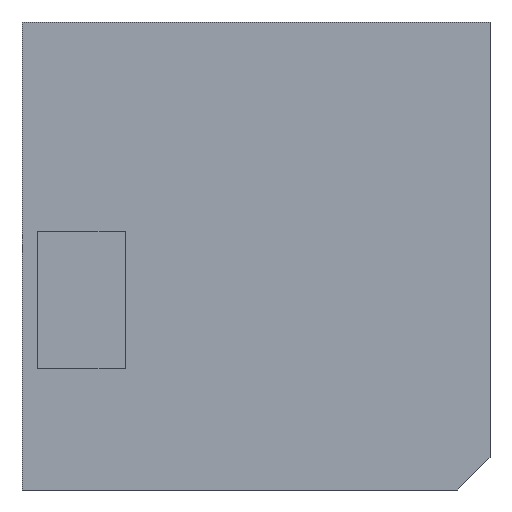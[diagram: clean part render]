
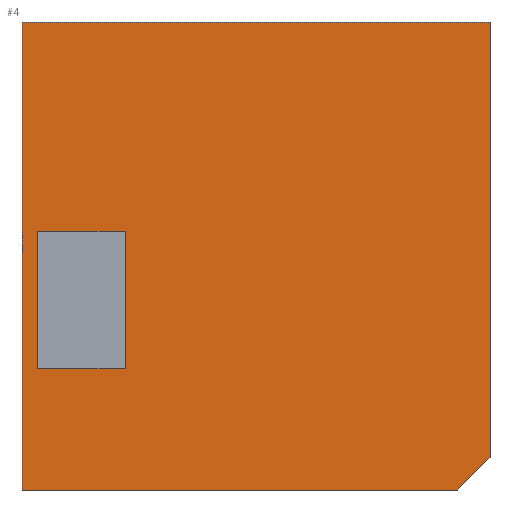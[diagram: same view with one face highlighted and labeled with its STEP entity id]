
A CAD part, front view. The second image highlights one B-rep face of the part: STEP entity #4.
In plain terms, the highlighted planar face has unit normal (0, -1, 0).
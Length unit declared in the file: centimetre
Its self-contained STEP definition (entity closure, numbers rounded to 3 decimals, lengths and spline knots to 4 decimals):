
#4 = ADVANCED_FACE ( 'NONE', ( #278, #534 ), #127, .F. ) ;
#6 = CARTESIAN_POINT ( 'NONE',  ( 220.4576, 0., 553.3405 ) ) ;
#9 = CARTESIAN_POINT ( 'NONE',  ( 220.4576, 0., 258.9136 ) ) ;
#14 = LINE ( 'NONE', #61, #273 ) ;
#19 = DIRECTION ( 'NONE',  ( 0., 0., 1. ) ) ;
#22 = VECTOR ( 'NONE', #390, 100. ) ;
#23 = CARTESIAN_POINT ( 'NONE',  ( 1000., 0., 1000. ) ) ;
#26 = LINE ( 'NONE', #536, #466 ) ;
#48 = LINE ( 'NONE', #600, #208 ) ;
#50 = EDGE_CURVE ( 'NONE', #77, #111, #293, .T. ) ;
#61 = CARTESIAN_POINT ( 'NONE',  ( 33.3188, 0., 258.9136 ) ) ;
#77 = VERTEX_POINT ( 'NONE', #23 ) ;
#86 = DIRECTION ( 'NONE',  ( 0., 1., 0. ) ) ;
#89 = DIRECTION ( 'NONE',  ( 1., 0., 0. ) ) ;
#92 = DIRECTION ( 'NONE',  ( 0., 0., -1. ) ) ;
#111 = VERTEX_POINT ( 'NONE', #288 ) ;
#126 = EDGE_CURVE ( 'NONE', #185, #77, #26, .T. ) ;
#127 = PLANE ( 'NONE',  #417 ) ;
#129 = CARTESIAN_POINT ( 'NONE',  ( 1000., 0., 1000. ) ) ;
#136 = EDGE_CURVE ( 'NONE', #233, #111, #184, .T. ) ;
#138 = CARTESIAN_POINT ( 'NONE',  ( 33.3188, 0., 553.3405 ) ) ;
#139 = LINE ( 'NONE', #188, #22 ) ;
#143 = EDGE_CURVE ( 'NONE', #557, #583, #139, .T. ) ;
#154 = EDGE_CURVE ( 'NONE', #316, #475, #588, .T. ) ;
#161 = ORIENTED_EDGE ( 'NONE', *, *, #126, .F. ) ;
#168 = DIRECTION ( 'NONE',  ( 0., 0., -1. ) ) ;
#174 = CARTESIAN_POINT ( 'NONE',  ( 220.4576, 0., 258.9136 ) ) ;
#184 = LINE ( 'NONE', #388, #620 ) ;
#185 = VERTEX_POINT ( 'NONE', #455 ) ;
#188 = CARTESIAN_POINT ( 'NONE',  ( 33.3188, 0., 258.9136 ) ) ;
#189 = VERTEX_POINT ( 'NONE', #552 ) ;
#201 = CARTESIAN_POINT ( 'NONE',  ( 33.3188, 0., 553.3405 ) ) ;
#208 = VECTOR ( 'NONE', #252, 100. ) ;
#233 = VERTEX_POINT ( 'NONE', #405 ) ;
#250 = ORIENTED_EDGE ( 'NONE', *, *, #50, .F. ) ;
#252 = DIRECTION ( 'NONE',  ( 1., 0., 0. ) ) ;
#261 = EDGE_CURVE ( 'NONE', #189, #233, #48, .T. ) ;
#273 = VECTOR ( 'NONE', #571, 100. ) ;
#278 = FACE_BOUND ( 'NONE', #429, .T. ) ;
#288 = CARTESIAN_POINT ( 'NONE',  ( 1000., 0., 68.8635 ) ) ;
#293 = LINE ( 'NONE', #129, #494 ) ;
#312 = DIRECTION ( 'NONE',  ( -1., 0., 0. ) ) ;
#316 = VERTEX_POINT ( 'NONE', #6 ) ;
#319 = CARTESIAN_POINT ( 'NONE',  ( 0., 0., 1000. ) ) ;
#322 = EDGE_CURVE ( 'NONE', #583, #316, #517, .T. ) ;
#349 = ORIENTED_EDGE ( 'NONE', *, *, #154, .F. ) ;
#353 = ORIENTED_EDGE ( 'NONE', *, *, #356, .T. ) ;
#356 = EDGE_CURVE ( 'NONE', #185, #189, #561, .T. ) ;
#376 = ORIENTED_EDGE ( 'NONE', *, *, #136, .T. ) ;
#378 = DIRECTION ( 'NONE',  ( 0., 0., 1. ) ) ;
#383 = ORIENTED_EDGE ( 'NONE', *, *, #143, .F. ) ;
#388 = CARTESIAN_POINT ( 'NONE',  ( 1000., 0., 68.8635 ) ) ;
#390 = DIRECTION ( 'NONE',  ( 1., 0., 0. ) ) ;
#402 = ORIENTED_EDGE ( 'NONE', *, *, #261, .T. ) ;
#405 = CARTESIAN_POINT ( 'NONE',  ( 931.1365, 0., 0. ) ) ;
#413 = EDGE_CURVE ( 'NONE', #475, #557, #14, .T. ) ;
#417 = AXIS2_PLACEMENT_3D ( 'NONE', #623, #86, #378 ) ;
#429 = EDGE_LOOP ( 'NONE', ( #383, #499, #349, #470 ) ) ;
#446 = EDGE_LOOP ( 'NONE', ( #402, #376, #250, #161, #353 ) ) ;
#455 = CARTESIAN_POINT ( 'NONE',  ( 0., 0., 1000. ) ) ;
#466 = VECTOR ( 'NONE', #89, 100. ) ;
#470 = ORIENTED_EDGE ( 'NONE', *, *, #322, .F. ) ;
#475 = VERTEX_POINT ( 'NONE', #138 ) ;
#489 = VECTOR ( 'NONE', #19, 100. ) ;
#494 = VECTOR ( 'NONE', #92, 100. ) ;
#499 = ORIENTED_EDGE ( 'NONE', *, *, #413, .F. ) ;
#517 = LINE ( 'NONE', #9, #489 ) ;
#534 = FACE_OUTER_BOUND ( 'NONE', #446, .T. ) ;
#536 = CARTESIAN_POINT ( 'NONE',  ( 0., 0., 1000. ) ) ;
#538 = CARTESIAN_POINT ( 'NONE',  ( 33.3188, 0., 258.9136 ) ) ;
#552 = CARTESIAN_POINT ( 'NONE',  ( 0., 0., 0. ) ) ;
#557 = VERTEX_POINT ( 'NONE', #538 ) ;
#561 = LINE ( 'NONE', #319, #652 ) ;
#571 = DIRECTION ( 'NONE',  ( 0., 0., -1. ) ) ;
#583 = VERTEX_POINT ( 'NONE', #174 ) ;
#588 = LINE ( 'NONE', #201, #602 ) ;
#600 = CARTESIAN_POINT ( 'NONE',  ( 0., 0., 0. ) ) ;
#602 = VECTOR ( 'NONE', #312, 100. ) ;
#620 = VECTOR ( 'NONE', #636, 100. ) ;
#623 = CARTESIAN_POINT ( 'NONE',  ( 0., 0., 1000. ) ) ;
#636 = DIRECTION ( 'NONE',  ( 0.707, 0., 0.707 ) ) ;
#652 = VECTOR ( 'NONE', #168, 100. ) ;
